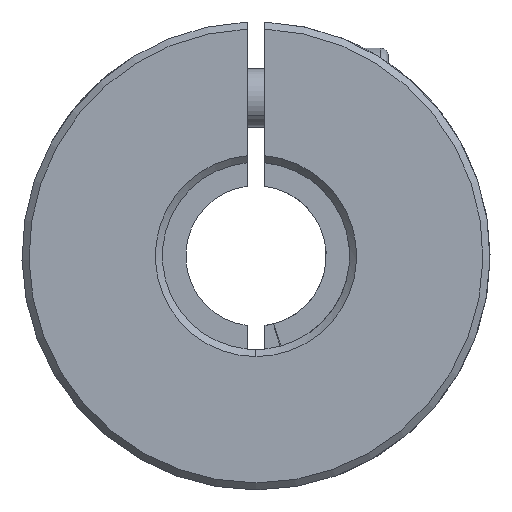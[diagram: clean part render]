
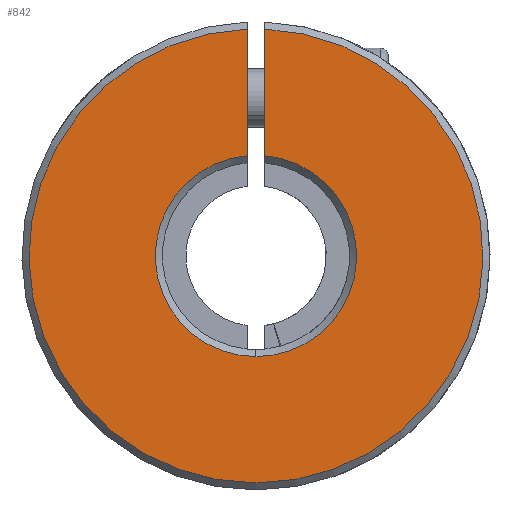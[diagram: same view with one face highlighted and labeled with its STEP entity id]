
A CAD part, front view. The second image highlights one B-rep face of the part: STEP entity #842.
In plain terms, the highlighted planar face has unit normal (0, -1, 0).
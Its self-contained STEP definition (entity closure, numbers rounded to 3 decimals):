
#18 = VECTOR ( 'NONE', #1016, 1000. ) ;
#130 = DIRECTION ( 'NONE',  ( 0., 1., 0. ) ) ;
#234 = EDGE_CURVE ( 'NONE', #2910, #3346, #3377, .T. ) ;
#235 = PLANE ( 'NONE',  #5635 ) ;
#261 = VERTEX_POINT ( 'NONE', #2941 ) ;
#312 = CARTESIAN_POINT ( 'NONE',  ( 0.75, -25., 8.567 ) ) ;
#335 = DIRECTION ( 'NONE',  ( 0., 1., 0. ) ) ;
#448 = AXIS2_PLACEMENT_3D ( 'NONE', #3372, #130, #1536 ) ;
#783 = EDGE_CURVE ( 'NONE', #261, #3398, #2148, .T. ) ;
#842 = ADVANCED_FACE ( 'NONE', ( #1660 ), #235, .F. ) ;
#934 = AXIS2_PLACEMENT_3D ( 'NONE', #3667, #335, #1343 ) ;
#1016 = DIRECTION ( 'NONE',  ( 0., 0., -1. ) ) ;
#1048 = CARTESIAN_POINT ( 'NONE',  ( 0.75, -25., -8. ) ) ;
#1077 = ORIENTED_EDGE ( 'NONE', *, *, #783, .T. ) ;
#1110 = CARTESIAN_POINT ( 'NONE',  ( 0., -25., -8.6 ) ) ;
#1189 = DIRECTION ( 'NONE',  ( 0., 0., 1. ) ) ;
#1343 = DIRECTION ( 'NONE',  ( 0., 0., 1. ) ) ;
#1536 = DIRECTION ( 'NONE',  ( 0., 0., 1. ) ) ;
#1618 = DIRECTION ( 'NONE',  ( 0., 0., 1. ) ) ;
#1660 = FACE_OUTER_BOUND ( 'NONE', #2310, .T. ) ;
#1695 = EDGE_CURVE ( 'NONE', #4595, #261, #2615, .T. ) ;
#2000 = ORIENTED_EDGE ( 'NONE', *, *, #2060, .T. ) ;
#2060 = EDGE_CURVE ( 'NONE', #3346, #4595, #3611, .T. ) ;
#2148 = LINE ( 'NONE', #3020, #3333 ) ;
#2310 = EDGE_LOOP ( 'NONE', ( #4508, #2000, #3524, #1077, #3472 ) ) ;
#2615 = CIRCLE ( 'NONE', #448, 8.6 ) ;
#2910 = VERTEX_POINT ( 'NONE', #4597 ) ;
#2941 = CARTESIAN_POINT ( 'NONE',  ( -0.75, -25., 8.567 ) ) ;
#2947 = AXIS2_PLACEMENT_3D ( 'NONE', #3417, #4875, #1618 ) ;
#3020 = CARTESIAN_POINT ( 'NONE',  ( -0.75, -25., -8. ) ) ;
#3333 = VECTOR ( 'NONE', #5381, 1000. ) ;
#3346 = VERTEX_POINT ( 'NONE', #312 ) ;
#3372 = CARTESIAN_POINT ( 'NONE',  ( 0., -25., 0. ) ) ;
#3377 = LINE ( 'NONE', #1048, #18 ) ;
#3398 = VERTEX_POINT ( 'NONE', #5618 ) ;
#3417 = CARTESIAN_POINT ( 'NONE',  ( 0., -25., 0. ) ) ;
#3472 = ORIENTED_EDGE ( 'NONE', *, *, #3881, .T. ) ;
#3524 = ORIENTED_EDGE ( 'NONE', *, *, #1695, .T. ) ;
#3611 = CIRCLE ( 'NONE', #934, 8.6 ) ;
#3667 = CARTESIAN_POINT ( 'NONE',  ( 0., -25., 0. ) ) ;
#3881 = EDGE_CURVE ( 'NONE', #3398, #2910, #5543, .T. ) ;
#4508 = ORIENTED_EDGE ( 'NONE', *, *, #234, .T. ) ;
#4595 = VERTEX_POINT ( 'NONE', #1110 ) ;
#4597 = CARTESIAN_POINT ( 'NONE',  ( 0.75, -25., 19.385 ) ) ;
#4852 = CARTESIAN_POINT ( 'NONE',  ( 0., -25., 0. ) ) ;
#4875 = DIRECTION ( 'NONE',  ( 0., -1., 0. ) ) ;
#5381 = DIRECTION ( 'NONE',  ( 0., 0., 1. ) ) ;
#5543 = CIRCLE ( 'NONE', #2947, 19.4 ) ;
#5618 = CARTESIAN_POINT ( 'NONE',  ( -0.75, -25., 19.385 ) ) ;
#5635 = AXIS2_PLACEMENT_3D ( 'NONE', #4852, #5867, #1189 ) ;
#5867 = DIRECTION ( 'NONE',  ( 0., 1., 0. ) ) ;
